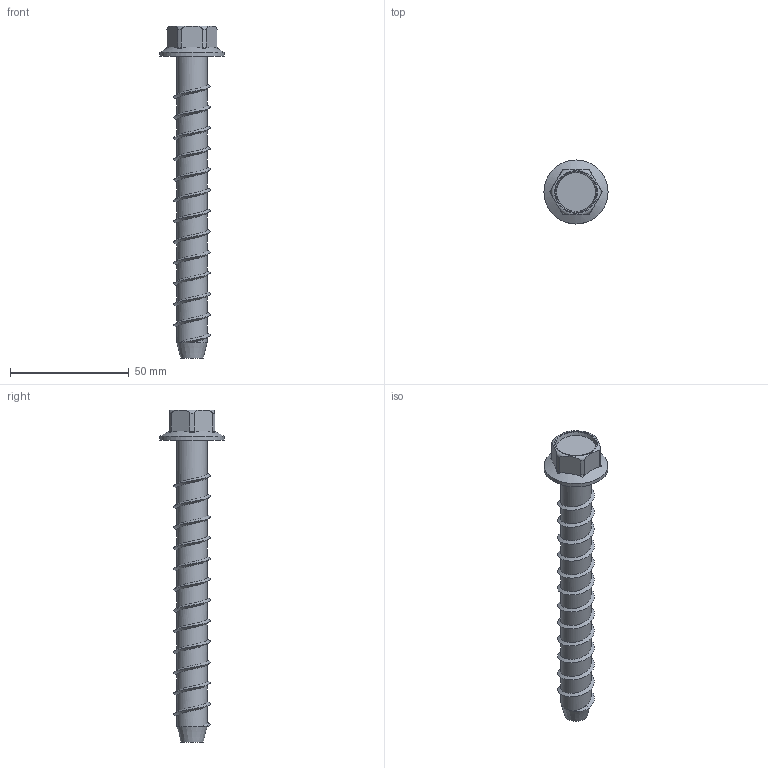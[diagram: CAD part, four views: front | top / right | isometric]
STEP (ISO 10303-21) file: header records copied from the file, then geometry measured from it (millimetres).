
FILE_DESCRIPTION(/* description */ (''),/* implementation_level */ '2;1');
FILE_NAME(/* name */ 'C:\001_Work\Designs\SAST\SAST-0.500 x 5.000.stp',/* time_stamp */ '2015-10-10T17:39:16-04:00',/* author */ ('rramoutar'),/* organization */ ('Mason Industries Inc.'),/* preprocessor_version */ 'ST-DEVELOPER v15.6',/* originating_system */ 'Autodesk Inventor 2015',/* authorisation */ '');
FILE_SCHEMA (('AUTOMOTIVE_DESIGN { 1 0 10303 214 3 1 1 }'));
Length unit declared in the file: inch
Products named in the file (1): SAST-0.500 x 5.000
Bounding box: 26.99 x 26.99 x 139.7 mm (x, y, z)
Volume: 20750.7 mm3; surface area: 7917.7 mm2
Topology: 1 solids, 1 shells, 49 faces, 122 edges, 77 vertices
Faces by surface type: cylinder 21, plane 10, bspline 8, torus 7, cone 3
Full cylindrical faces by diameter (mm): 12.7 x13, 26.987 x1
Entity records: 3281 total; most frequent: CARTESIAN_POINT 2549, ORIENTED_EDGE 154, DIRECTION 124, EDGE_CURVE 77, AXIS2_PLACEMENT_3D 53, VERTEX_POINT 51, EDGE_LOOP 44, FACE_OUTER_BOUND 36
